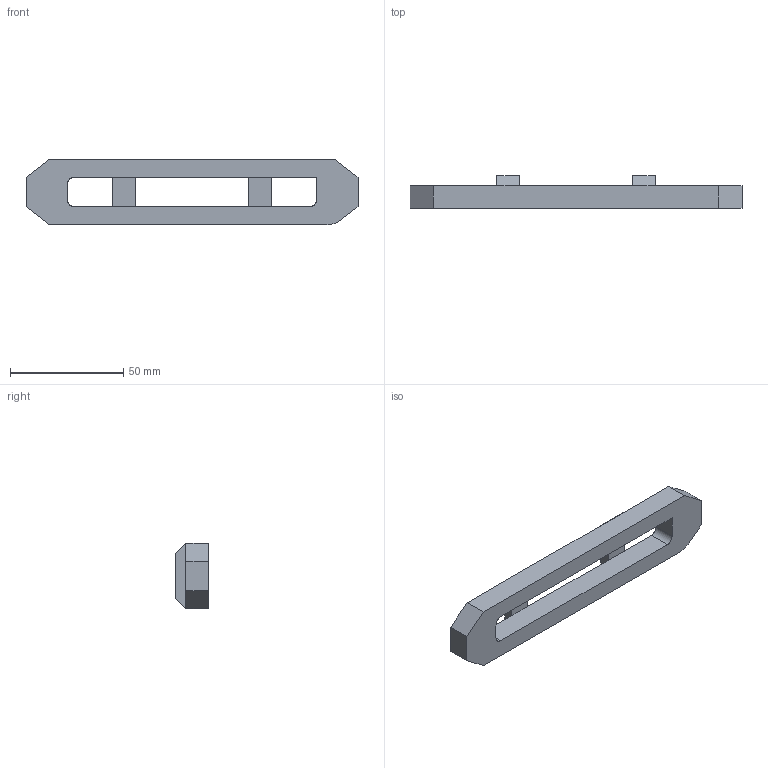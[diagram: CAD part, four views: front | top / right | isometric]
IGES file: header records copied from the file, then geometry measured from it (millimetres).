
Start section: SolidWorks IGES file using analytic representation for surfaces
Global section: file name: C:\Documents and Settings\Pc\Escritorio\Modelos 3D\Capítulo 4 (Caída)\PRACTICAS\P-11\practica 2-3.IGS; native system: SolidWorks 2010; preprocessor: SolidWorks 2010; author: Pc; date: 100623.113959; units: millimetre
Bounding box: 146.71 x 14.5 x 29 mm (x, y, z)
Surface area: 12084.9 mm2 (no closed solid volume)
Topology: 0 solids, 0 shells, 33 faces, 232 edges, 232 vertices
Faces by surface type: bspline 29, revolution 4
